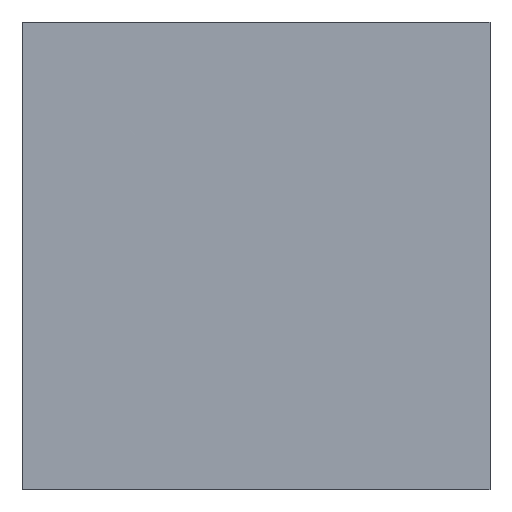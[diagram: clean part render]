
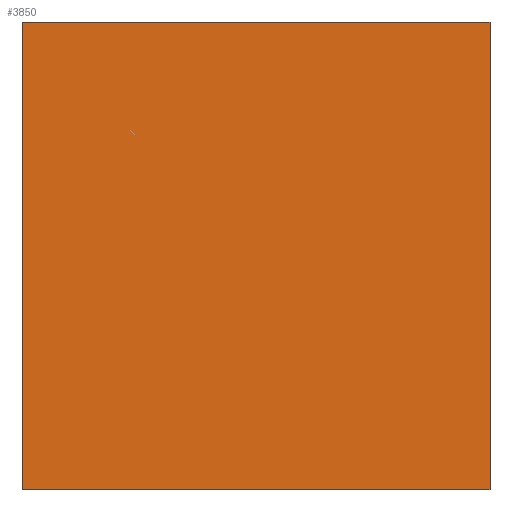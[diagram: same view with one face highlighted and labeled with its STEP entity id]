
A CAD part, left-side view. The second image highlights one B-rep face of the part: STEP entity #3850.
In plain terms, the highlighted planar face has unit normal (-1, 0, 0).
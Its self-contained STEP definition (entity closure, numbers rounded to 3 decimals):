
#54 = LINE ( 'NONE', #593, #5336 ) ;
#152 = DIRECTION ( 'NONE',  ( 0., 0., -1. ) ) ;
#183 = CARTESIAN_POINT ( 'NONE',  ( -47.5, 42.965, 95. ) ) ;
#211 = CARTESIAN_POINT ( 'NONE',  ( -47.5, 42.965, 95. ) ) ;
#360 = EDGE_CURVE ( 'NONE', #2869, #4580, #1787, .T. ) ;
#393 = EDGE_CURVE ( 'NONE', #4330, #2869, #4520, .T. ) ;
#593 = CARTESIAN_POINT ( 'NONE',  ( -47.5, 42.965, 95. ) ) ;
#1261 = VECTOR ( 'NONE', #6389, 1000. ) ;
#1682 = CARTESIAN_POINT ( 'NONE',  ( -47.5, -52.035, 95. ) ) ;
#1787 = LINE ( 'NONE', #1682, #6126 ) ;
#2357 = ORIENTED_EDGE ( 'NONE', *, *, #5580, .T. ) ;
#2707 = VECTOR ( 'NONE', #6706, 1000. ) ;
#2869 = VERTEX_POINT ( 'NONE', #3342 ) ;
#3031 = ORIENTED_EDGE ( 'NONE', *, *, #360, .F. ) ;
#3342 = CARTESIAN_POINT ( 'NONE',  ( -47.5, -52.035, 95. ) ) ;
#3375 = PLANE ( 'NONE',  #4229 ) ;
#3850 = ADVANCED_FACE ( 'NONE', ( #5078 ), #3375, .F. ) ;
#3961 = CARTESIAN_POINT ( 'NONE',  ( -47.5, 42.965, 95. ) ) ;
#4104 = LINE ( 'NONE', #6963, #1261 ) ;
#4229 = AXIS2_PLACEMENT_3D ( 'NONE', #211, #4940, #5575 ) ;
#4330 = VERTEX_POINT ( 'NONE', #3961 ) ;
#4520 = LINE ( 'NONE', #183, #2707 ) ;
#4580 = VERTEX_POINT ( 'NONE', #5951 ) ;
#4940 = DIRECTION ( 'NONE',  ( 1., 0., 0. ) ) ;
#5078 = FACE_OUTER_BOUND ( 'NONE', #6196, .T. ) ;
#5297 = ORIENTED_EDGE ( 'NONE', *, *, #393, .F. ) ;
#5336 = VECTOR ( 'NONE', #6043, 1000. ) ;
#5346 = CARTESIAN_POINT ( 'NONE',  ( -47.5, 42.965, 0. ) ) ;
#5575 = DIRECTION ( 'NONE',  ( 0., 1., 0. ) ) ;
#5580 = EDGE_CURVE ( 'NONE', #4330, #5964, #54, .T. ) ;
#5899 = EDGE_CURVE ( 'NONE', #5964, #4580, #4104, .T. ) ;
#5951 = CARTESIAN_POINT ( 'NONE',  ( -47.5, -52.035, 0. ) ) ;
#5964 = VERTEX_POINT ( 'NONE', #5346 ) ;
#6043 = DIRECTION ( 'NONE',  ( 0., 0., -1. ) ) ;
#6126 = VECTOR ( 'NONE', #152, 1000. ) ;
#6196 = EDGE_LOOP ( 'NONE', ( #7048, #3031, #5297, #2357 ) ) ;
#6389 = DIRECTION ( 'NONE',  ( 0., -1., 0. ) ) ;
#6706 = DIRECTION ( 'NONE',  ( 0., -1., 0. ) ) ;
#6963 = CARTESIAN_POINT ( 'NONE',  ( -47.5, 42.965, 0. ) ) ;
#7048 = ORIENTED_EDGE ( 'NONE', *, *, #5899, .T. ) ;
